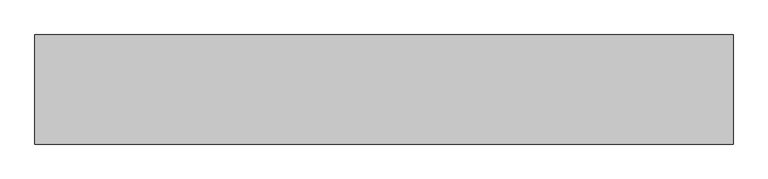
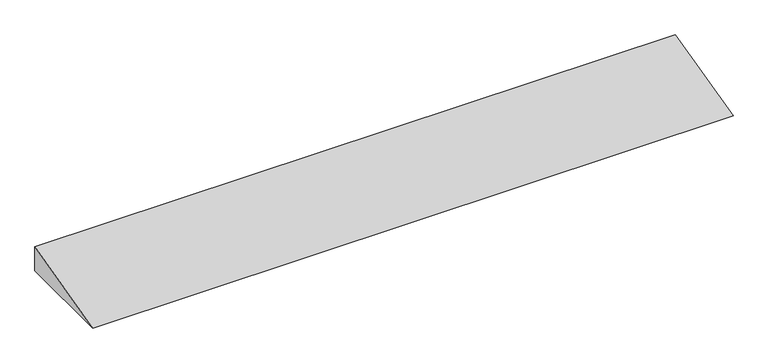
"""IFC4 building model written with IfcOpenShell, lengths in millimetres: proxy geometry, 常规模型 2 : 常规模型 2."""

from ifc_helpers import new_model, si_unit, frame, origin, place, context, project, spatial, polyline, outline, extrude, source, transform, mapped, element, save


def generic_models_deb05e92(model_context):
    return source(origin(), model_context, "Body", "SweptSolid", [
        extrude(outline(polyline([(-27627.7106127, -300.0), (-27627.7106127, -450.0), (-28227.7106127, -450.0), (-27627.7106127, -300.0)])), frame((-49977.1400177, 0.0, 0.0), z_axis=(1.0, 0.0, 0.0), x_axis=(0.0, 1.0, 0.0)), (0.0, 0.0, 1.0), 3840.0),
    ])


if __name__ == "__main__":
    model = new_model("IFC4")
    model_context = context("Model", 3, world=origin())
    ifc_project = project(units=[si_unit("LENGTHUNIT", "METRE", prefix="MILLI")], contexts=[model_context])
    site = spatial("IfcSite", under=ifc_project)
    building = spatial("IfcBuilding", under=site)
    placement = place(None, origin())
    generic_models_shape = generic_models_deb05e92(model_context)
    element("IfcBuildingElementProxy", 1, Name="常规模型 2 : 常规模型 2", ObjectType="常规模型 2 : 常规模型 2", at=placement, inside=building, context=model_context, shape_type="MappedRepresentation", body=[
        mapped(generic_models_shape, transform((0.0, 0.0, 0.0), x_axis=(1.0, 0.0, 0.0), y_axis=(0.0, 1.0, 0.0), z_axis=(0.0, 0.0, 1.0))),
    ])
    save(model, "model.ifc")
